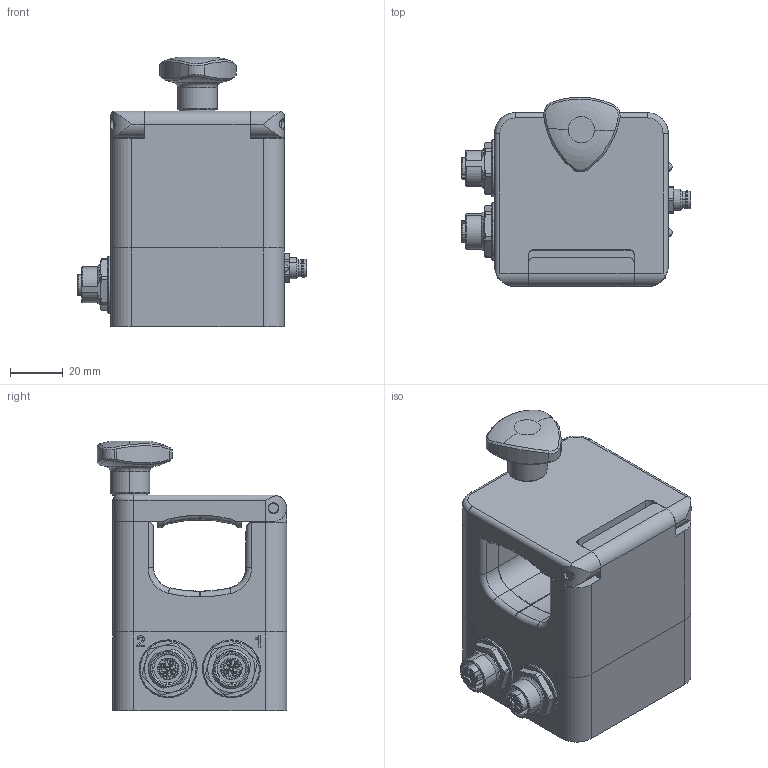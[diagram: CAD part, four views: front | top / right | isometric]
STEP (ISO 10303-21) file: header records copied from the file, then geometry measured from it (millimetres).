
FILE_DESCRIPTION (( 'STEP AP214' ), '1' );
FILE_NAME ('BCU-1375.STEP', '2025-07-29T14:31:06', ( '' ), ( '' ), 'SwSTEP 2.0', 'SolidWorks 2023', '' );
FILE_SCHEMA (( 'AUTOMOTIVE_DESIGN' ));
Length unit declared in the file: inch
Products named in the file (1): BCU-1375
Bounding box: 87.1 x 71.88 x 102.5 mm (x, y, z)
Surface area: 66853.5 mm2 (no closed solid volume)
Topology: 0 solids, 35 shells, 1161 faces, 2821 edges, 1775 vertices
Faces by surface type: cylinder 427, plane 425, cone 151, bspline 83, torus 66, sphere 9
Entity records: 40252 total; most frequent: CARTESIAN_POINT 13400, ORIENTED_EDGE 5538, DIRECTION 5476, EDGE_CURVE 2773, AXIS2_PLACEMENT_3D 2094, VERTEX_POINT 1763, EDGE_LOOP 1296, VECTOR 1288
